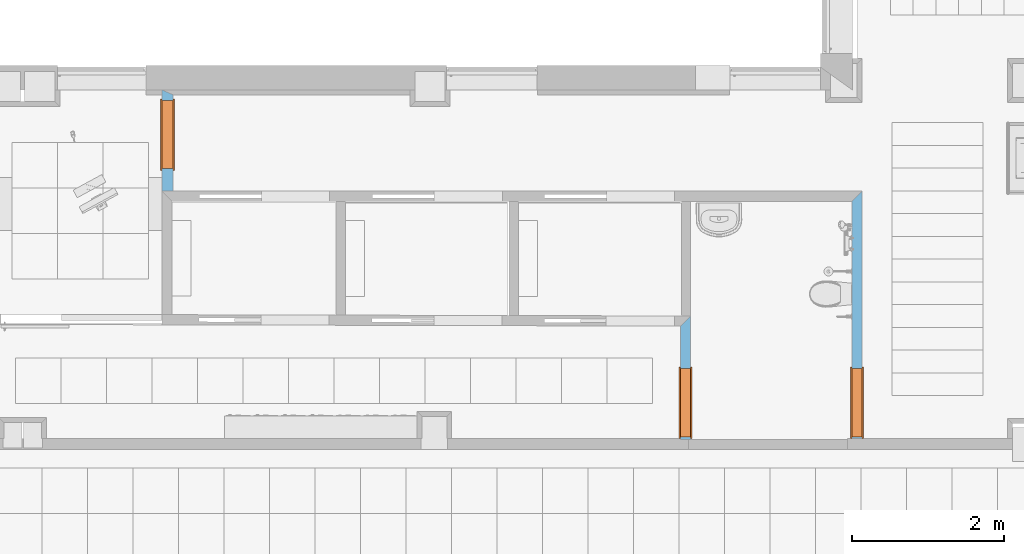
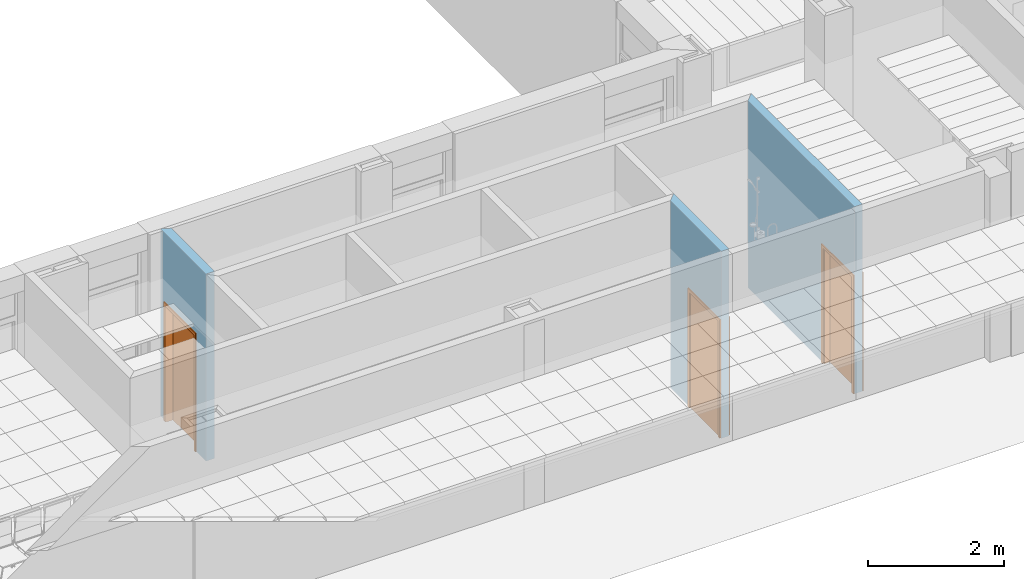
# One storey, part 52 of 68: 3 proxies, 3 openings, plus 3 elements that do not belong to this part.
"""IFC2X3 building model written with IfcOpenShell, lengths in millimetres."""

import ifcopenshell
import ifcopenshell.guid

model = None  # the IFC model being written
_history = None  # IfcOwnerHistory: only IFC2X3 demands one
_inside = {}  # id of a spatial element -> (the spatial element, [elements in it])
_under = {}  # id of a project, library or spatial element -> (it, [spatial elements below it])
_declared = {}  # id of a project -> (the project, [libraries it declares])
_typed = {}  # id of a type object -> (the type object, [elements of that type])
_made_of = {}  # id of a material, layer set ... -> (it, [elements and type objects made of it])


def new_model(schema):
    """Start an empty IFC model of exactly this schema.

    Asked for "IFC4X3", IfcOpenShell would pick the latest addendum, in which some entities
    have other attributes; the version numbers below select the first issue.
    IFC2X3 requires an IfcOwnerHistory on every rooted entity: one is made here for all.
    """
    global model, _history
    if schema == "IFC4X3":
        model = ifcopenshell.file(schema_version=(4, 3, 0, 0))
    else:
        model = ifcopenshell.file(schema=schema)
    _inside.clear()
    _under.clear()
    _declared.clear()
    _typed.clear()
    _made_of.clear()
    _history = None
    if model.schema == "IFC2X3":
        org = make("IfcOrganization", Name="unknown")
        user = make(
            "IfcPersonAndOrganization",
            ThePerson=make("IfcPerson", FamilyName="unknown"),
            TheOrganization=org,
        )
        app = make(
            "IfcApplication",
            ApplicationDeveloper=org,
            Version="unknown",
            ApplicationFullName="unknown",
            ApplicationIdentifier="unknown",
        )
        _history = make(
            "IfcOwnerHistory",
            OwningUser=user,
            OwningApplication=app,
            ChangeAction="ADDED",
            CreationDate=0,
        )
    return model


def make(cls, **values):
    """One entity of the class cls with the attributes given. An attribute that is None is left unset."""
    return model.create_entity(
        cls, **{name: value for name, value in values.items() if value is not None}
    )


def entity(cls, *values):
    """Any entity or typed value of the class cls, its attributes in the order of the schema. None: left unset."""
    e = model.create_entity(cls)
    for i, value in enumerate(values):
        if value is not None:
            e[i] = value
    return e


def rooted(cls, **values):
    """An entity with a GlobalId (a new one), such as an element, a storey or a relation."""
    return make(cls, GlobalId=ifcopenshell.guid.new(), OwnerHistory=_history, **values)


def si_unit(unit_type, name, prefix=None):
    """IfcSIUnit, for example si_unit("LENGTHUNIT", "METRE", prefix="MILLI")."""
    return make("IfcSIUnit", UnitType=unit_type, Prefix=prefix, Name=name)


def converted_unit(unit_type, name, factor, base, dimensions=None, offset=None):
    """IfcConversionBasedUnit, such as the inch: factor (a typed value) times the base unit."""
    return make(
        "IfcConversionBasedUnit"
        if offset is None
        else "IfcConversionBasedUnitWithOffset",
        ConversionOffset=offset,
        Dimensions=None
        if dimensions is None
        else entity("IfcDimensionalExponents", *dimensions),
        UnitType=unit_type,
        Name=name,
        ConversionFactor=make(
            "IfcMeasureWithUnit", ValueComponent=factor, UnitComponent=base
        ),
    )


def derived_unit(unit_type, elements):
    """IfcDerivedUnit: a product of units, each with its exponent."""
    return make(
        "IfcDerivedUnit",
        Elements=[
            make("IfcDerivedUnitElement", Unit=unit, Exponent=power)
            for unit, power in elements
        ],
        UnitType=unit_type,
    )


def money_unit(currency):
    """IfcMonetaryUnit."""
    return make("IfcMonetaryUnit", Currency=currency)


def assignment(units):
    """IfcUnitAssignment: the units of a project."""
    return None if units is None else make("IfcUnitAssignment", Units=units)


def point(xyz):
    """IfcCartesianPoint."""
    return None if xyz is None else make("IfcCartesianPoint", Coordinates=xyz)


def direction(xyz):
    """IfcDirection."""
    return None if xyz is None else make("IfcDirection", DirectionRatios=xyz)


def frame(location, z_axis=None, x_axis=None):
    """IfcAxis2Placement3D, a coordinate frame: its origin and axes. An axis left out is left unset."""
    return make(
        "IfcAxis2Placement3D",
        Location=point(location),
        Axis=direction(z_axis),
        RefDirection=direction(x_axis),
    )


def frame_2d(location, x_axis=None):
    """IfcAxis2Placement2D, a coordinate frame in the plane: its origin and x axis."""
    return make(
        "IfcAxis2Placement2D", Location=point(location), RefDirection=direction(x_axis)
    )


def origin_with_axes():
    """The frame at (0, 0, 0) with the z axis (0, 0, 1) and the x axis (1, 0, 0) written out."""
    return frame((0.0, 0.0, 0.0), z_axis=(0.0, 0.0, 1.0), x_axis=(1.0, 0.0, 0.0))


def origin_2d_with_axis():
    """The frame at (0, 0) in the plane with the x axis (1, 0) written out."""
    return frame_2d((0.0, 0.0), x_axis=(1.0, 0.0))


def place(relative_to, where):
    """IfcLocalPlacement: puts the frame where relative to a parent placement (None: the world)."""
    return make(
        "IfcLocalPlacement", PlacementRelTo=relative_to, RelativePlacement=where
    )


def context(
    kind, dimensions, precision=None, world=None, true_north=None, identifier=None
):
    """IfcGeometricRepresentationContext, for example the 3D "Model" context."""
    return make(
        "IfcGeometricRepresentationContext",
        ContextIdentifier=identifier,
        ContextType=kind,
        CoordinateSpaceDimension=dimensions,
        Precision=precision,
        WorldCoordinateSystem=world,
        TrueNorth=true_north,
    )


def subcontext(parent, identifier, kind, view, scale=None):
    """IfcGeometricRepresentationSubContext, for example "Body" below "Model"."""
    return make(
        "IfcGeometricRepresentationSubContext",
        ContextIdentifier=identifier,
        ContextType=kind,
        ParentContext=parent,
        TargetScale=scale,
        TargetView=view,
    )


def project(units=None, contexts=None):
    """IfcProject with its units and contexts."""
    return rooted(
        "IfcProject",
        Name="project",
        RepresentationContexts=contexts,
        UnitsInContext=assignment(units),
    )


def spatial(cls, under=None, at=None, **own):
    """A site, building, storey or space (cls), placed at a placement, below another one or the project."""
    s = rooted(cls, ObjectPlacement=at, **own)
    if under is not None:
        _under.setdefault(under.id(), (under, []))[1].append(s)
    return s


def polyline(points):
    """IfcPolyline through the points."""
    return make("IfcPolyline", Points=[point(p) for p in points])


def profile(cls, at=None, kind="AREA", **sizes):
    """A parametric profile (cls). Its sizes go by their IFC names, for example OverallWidth=200.0."""
    return make(cls, ProfileType=kind, Position=at, **sizes)


def rectangle(**sizes):
    """IfcRectangleProfileDef."""
    return profile("IfcRectangleProfileDef", **sizes)


def outline(outer, holes=None, kind="AREA"):
    """IfcArbitraryClosedProfileDef: a profile drawn as a closed curve; with holes, ...WithVoids."""
    if holes is None:
        return make("IfcArbitraryClosedProfileDef", ProfileType=kind, OuterCurve=outer)
    return make(
        "IfcArbitraryProfileDefWithVoids",
        ProfileType=kind,
        OuterCurve=outer,
        InnerCurves=holes,
    )


def extrude(swept, where, along, depth):
    """IfcExtrudedAreaSolid: the profile swept, set in the frame where, extruded along a direction by depth."""
    return make(
        "IfcExtrudedAreaSolid",
        SweptArea=swept,
        Position=where,
        ExtrudedDirection=direction(along),
        Depth=depth,
    )


def faces_of(points, faces, orient=None, outer=None):
    """IfcFace entities. A face is a list of loops; a loop is a list of indices into points, from 0.

    orient and outer hold one flag for each loop. By default every Orientation is true, the
    first loop of a face is its IfcFaceOuterBound and the others are IfcFaceBound.
    """
    made = []
    for i, loops in enumerate(faces):
        bounds = []
        for j, loop in enumerate(loops):
            is_outer = j == 0 if outer is None else outer[i][j]
            bounds.append(
                make(
                    "IfcFaceOuterBound" if is_outer else "IfcFaceBound",
                    Bound=make("IfcPolyLoop", Polygon=[points[k] for k in loop]),
                    Orientation=True if orient is None else orient[i][j],
                )
            )
        made.append(make("IfcFace", Bounds=bounds))
    return made


def faceted_brep(points, faces, orient=None, outer=None, voids=None):
    """IfcFacetedBrep: a solid bounded by flat faces; with voids (closed shells), ...WithVoids."""
    shared = [point(p) for p in points]
    hull = make("IfcClosedShell", CfsFaces=faces_of(shared, faces, orient, outer))
    if voids is None:
        return make("IfcFacetedBrep", Outer=hull)
    return make(
        "IfcFacetedBrepWithVoids",
        Outer=hull,
        Voids=[
            make(cls, CfsFaces=faces_of(shared, fs, o, b)) for cls, fs, o, b in voids
        ],
    )


def shape(context_of_items, identifier, shape_type, items):
    """IfcShapeRepresentation: the items that make up one representation, for example the "Body"."""
    return make(
        "IfcShapeRepresentation",
        ContextOfItems=context_of_items,
        RepresentationIdentifier=identifier,
        RepresentationType=shape_type,
        Items=items,
    )


def material(Name=None, Category=None):
    """IfcMaterial."""
    return make("IfcMaterial", Name=Name, Category=Category)


def layer(
    of_material, thickness, ventilated=None, Name=None, Category=None, Priority=None
):
    """IfcMaterialLayer: one layer of a wall or slab, of a material (None: an air gap)."""
    return make(
        "IfcMaterialLayer",
        Material=of_material,
        LayerThickness=thickness,
        IsVentilated=ventilated,
        Name=Name,
        Category=Category,
        Priority=Priority,
    )


def layer_set(layers, Name=None):
    """IfcMaterialLayerSet."""
    return make("IfcMaterialLayerSet", MaterialLayers=layers, LayerSetName=Name)


def layer_usage(for_layer_set, set_direction, sense, offset, extent=None):
    """IfcMaterialLayerSetUsage: how a layer set lies in its element."""
    return make(
        "IfcMaterialLayerSetUsage",
        ForLayerSet=for_layer_set,
        LayerSetDirection=set_direction,
        DirectionSense=sense,
        OffsetFromReferenceLine=offset,
        ReferenceExtent=extent,
    )


def made_of(thing, what):
    """Note that an element or type object is made of a material, layer set ...; save() writes the relation."""
    if what is not None:
        _made_of.setdefault(what.id(), (what, []))[1].append(thing)
    return thing


def type_object(cls, material=None, **own):
    """A type object (cls), such as IfcWallType, which elements share."""
    return made_of(rooted(cls, **own), material)


def element(
    cls,
    number,
    at=None,
    inside=None,
    cuts=None,
    type_object=None,
    material=None,
    context=None,
    identifier="Body",
    shape_type=None,
    held_by="IfcProductDefinitionShape",
    body=None,
    shapes=None,
    **own,
):
    """One element of the class cls, such as IfcWall. Its Tag is "e" and its number.

    at: its placement. inside: the storey or other place that contains it. cuts: it is an
    opening in that element (IfcRelVoidsElement). A single representation is given by context,
    identifier, shape_type and body (its items); several are given by shapes. held_by: the class
    of the entity that holds the representations. save() writes the other relations.
    """
    e = rooted(cls, Tag="e%d" % number, ObjectPlacement=at, **own)
    if body is not None:
        shapes = [shape(context, identifier, shape_type, body)]
    if shapes is not None:
        e.Representation = make(held_by, Representations=shapes)
    if inside is not None:
        _inside.setdefault(inside.id(), (inside, []))[1].append(e)
    if cuts is not None:
        rooted(
            "IfcRelVoidsElement", RelatingBuildingElement=cuts, RelatedOpeningElement=e
        )
    if type_object is not None:
        _typed.setdefault(type_object.id(), (type_object, []))[1].append(e)
    return made_of(e, material)


def fill(opening, filler):
    """IfcRelFillsElement: the door or window that sits in an opening."""
    return rooted(
        "IfcRelFillsElement",
        RelatingOpeningElement=opening,
        RelatedBuildingElement=filler,
    )


def aggregate(whole, parts):
    """IfcRelAggregates: a whole, such as a stair, and the parts it consists of."""
    return rooted("IfcRelAggregates", RelatingObject=whole, RelatedObjects=parts)


def save(model, path):
    """Write the relations noted so far, then the file.

    IfcRelAggregates (storeys below a building ...), IfcRelContainedInSpatialStructure (elements
    in a storey), IfcRelDefinesByType, IfcRelAssociatesMaterial and IfcRelDeclares: one each for
    every whole, place, type object, material and project.
    """
    for whole, parts in _under.values():
        aggregate(whole, parts)
    for where, things in _inside.values():
        rooted(
            "IfcRelContainedInSpatialStructure",
            RelatedElements=things,
            RelatingStructure=where,
        )
    for kind, things in _typed.values():
        rooted("IfcRelDefinesByType", RelatedObjects=things, RelatingType=kind)
    for what, things in _made_of.values():
        rooted("IfcRelAssociatesMaterial", RelatedObjects=things, RelatingMaterial=what)
    for by, libraries in _declared.values():
        rooted("IfcRelDeclares", RelatingContext=by, RelatedDefinitions=libraries)
    model.write(path)


model = new_model("IFC2X3")

# Units and contexts
model_context = context("Model", 3, precision=0.01, world=origin_with_axes(), true_north=direction((0.0, 1.0)))
body_context = subcontext(model_context, "Body", "Model", "MODEL_VIEW")
ifc_project = project(units=[si_unit("LENGTHUNIT", "METRE", prefix="MILLI"), si_unit("AREAUNIT", "SQUARE_METRE"), si_unit("VOLUMEUNIT", "CUBIC_METRE"), converted_unit("PLANEANGLEUNIT", "DEGREE", entity("IfcPlaneAngleMeasure", 0.0174532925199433), si_unit("PLANEANGLEUNIT", "RADIAN"), dimensions=[0, 0, 0, 0, 0, 0, 0]), money_unit("USD"), converted_unit("TIMEUNIT", "Year", entity("IfcTimeMeasure", 31557600.0), si_unit("TIMEUNIT", "SECOND"), dimensions=[0, 0, 1, 0, 0, 0, 0]), si_unit("MASSUNIT", "GRAM", prefix="KILO"), si_unit("THERMODYNAMICTEMPERATUREUNIT", "DEGREE_CELSIUS"), si_unit("LUMINOUSINTENSITYUNIT", "LUMEN"), si_unit("ENERGYUNIT", "JOULE", prefix="MEGA"), derived_unit("THERMALCONDUCTANCEUNIT", [(si_unit("POWERUNIT", "WATT"), 1), (si_unit("LENGTHUNIT", "METRE"), -1), (si_unit("THERMODYNAMICTEMPERATUREUNIT", "KELVIN"), -1)]), derived_unit("SPECIFICHEATCAPACITYUNIT", [(si_unit("ENERGYUNIT", "JOULE"), 1), (si_unit("MASSUNIT", "GRAM", prefix="KILO"), -1), (si_unit("THERMODYNAMICTEMPERATUREUNIT", "KELVIN"), -1)]), derived_unit("MASSDENSITYUNIT", [(si_unit("MASSUNIT", "GRAM", prefix="KILO"), 1), (si_unit("VOLUMEUNIT", "CUBIC_METRE"), -1)])], contexts=[model_context])

# Site, building, storey
site_placement = place(None, origin_with_axes())
site = spatial("IfcSite", under=ifc_project, at=site_placement, Name="Sitio", CompositionType="ELEMENT")
building_placement = place(site_placement, origin_with_axes())
building = spatial("IfcBuilding", under=site, at=building_placement, Name="Construcción", CompositionType="ELEMENT")
storey_placement = place(building_placement, origin_with_axes())
storey = spatial("IfcBuildingStorey", under=building, at=storey_placement, Name="PLANTA 1ª", CompositionType="ELEMENT", Elevation=0.0)

# Wall, opening, proxy
ifc_material_1 = material(Name="ARQ_FU093_Panellat_HPL")
ifc_layer_1 = layer(ifc_material_1, 6.0, ventilated="UNKNOWN")
ifc_material_2 = material(Name="ARQ_EN271_Camara_Aire")
ifc_layer_2 = layer(ifc_material_2, 6.0, ventilated="UNKNOWN")
ifc_material_3 = material(Name="Panel de Yeso Laminado")
ifc_layer_3 = layer(ifc_material_3, 13.0, ventilated="UNKNOWN")
ifc_layer_4 = layer(ifc_material_3, 13.0, ventilated="UNKNOWN")
ifc_material_4 = material(Name="ARQ_AI033_Aillament_Llana_De_Roca")
ifc_layer_5 = layer(ifc_material_4, 70.0, ventilated="UNKNOWN")
ifc_layer_6 = layer(ifc_material_3, 13.0, ventilated="UNKNOWN")
ifc_layer_7 = layer(ifc_material_3, 13.0, ventilated="UNKNOWN")
ifc_layer_8 = layer(ifc_material_2, 6.0, ventilated="UNKNOWN")
ifc_layer_9 = layer(ifc_material_1, 6.0, ventilated="UNKNOWN")
ifc_layer_set_1 = layer_set([ifc_layer_1, ifc_layer_2, ifc_layer_3, ifc_layer_4, ifc_layer_5, ifc_layer_6, ifc_layer_7, ifc_layer_8, ifc_layer_9], Name="CR Pladur 70 HPL 2 cares")
ifc_layer_usage_1 = layer_usage(ifc_layer_set_1, "AXIS2", "NEGATIVE", 146.0)
wall_type_1 = type_object("IfcWallType", Name="CR Pladur 70 HPL 2 cares 146", PredefinedType="NOTDEFINED")
wall_1_placement = place(storey_placement, frame((-10640.07146744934, -13808.56065481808, 0.0), z_axis=(0.0, 0.0, 1.0), x_axis=(0.001478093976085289, 0.9999989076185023, 0.0)))
wall_1 = element("IfcWallStandardCase", 1, at=wall_1_placement, inside=storey, type_object=wall_type_1, material=ifc_layer_usage_1, Name="MS-205", context=body_context, shape_type="SweptSolid", body=[
    extrude(outline(polyline([(134.0001463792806, 0.0), (1404.586365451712, 0.0), (1469.37063450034, 146.0000000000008), (133.7843444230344, 146.0000000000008), (134.0001463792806, 0.0)])), origin_with_axes(), (0.0, 0.0, 1.0), 3350.0),
])
opening_1_placement = place(wall_1_placement, frame((880.3295445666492, 0.0, 0.0), z_axis=(0.0, 0.0, 1.0), x_axis=(1.0, 0.0, 0.0)))
opening_1 = element("IfcOpeningElement", 2, at=opening_1_placement, cuts=wall_1, Name="P-02", context=body_context, shape_type="SweptSolid", body=[
    extrude(rectangle(XDim=900.0000000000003, YDim=2100.0, at=origin_2d_with_axis()), frame((0.0, 145.999999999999, 1050.0), z_axis=(0.0, 1.0, 0.0), x_axis=(1.0, 0.0, 0.0)), (0.0, 0.0, -1.0), 438.0000000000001),
    extrude(rectangle(XDim=943.9999999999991, YDim=2122.0, at=origin_2d_with_axis()), frame((0.0, 145.999999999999, 1061.0), z_axis=(0.0, 1.0, 0.0), x_axis=(1.0, 0.0, 0.0)), (0.0, 0.0, 1.0), 146.0),
    extrude(rectangle(XDim=944.0000000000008, YDim=2122.0, at=origin_2d_with_axis()), frame((0.0, 0.0, 1061.0), z_axis=(0.0, -1.0, 0.0), x_axis=(1.0, 0.0, 0.0)), (0.0, 0.0, 1.0), 146.0),
])
building_element_proxy_type = type_object("IfcBuildingElementProxyType", Name="Puerta 27", PredefinedType="NOTDEFINED")
proxy_1_placement = place(opening_1_placement, frame((449.9999999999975, 0.0, 0.0), z_axis=(0.0, 0.0, 1.0), x_axis=(-1.0, 0.0, 0.0)))
proxy_1 = element("IfcBuildingElementProxy", 3, at=proxy_1_placement, inside=storey, type_object=building_element_proxy_type, Name="P-02", context=body_context, shape_type="Brep", body=[
    faceted_brep([(921.9999999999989, -164.9999999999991, 0.0), (871.9999999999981, -164.9999999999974, 0.0), (871.9999999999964, -146.0000000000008, 0.0), (921.999999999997, -145.999999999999, 0.0), (921.9999999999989, -164.9999999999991, 2122.0), (871.9999999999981, -164.9999999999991, 2072.0), (871.9999999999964, -146.0000000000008, 2072.0), (921.999999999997, -145.999999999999, 2122.0)], [[[0, 1, 2, 3]], [[0, 4, 5, 1]], [[1, 5, 6, 2]], [[3, 2, 6, 7]], [[4, 0, 3, 7]], [[5, 4, 7, 6]]]),
    faceted_brep([(-22.00000000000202, -164.9999999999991, 2122.0), (27.99999999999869, -164.9999999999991, 2072.0), (27.99999999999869, -145.999999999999, 2072.0), (-22.00000000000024, -146.0000000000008, 2122.0), (-22.00000000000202, -164.9999999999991, 0.0), (27.99999999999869, -164.9999999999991, 0.0), (27.99999999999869, -145.9999999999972, 0.0), (-22.00000000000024, -146.0000000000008, 0.0)], [[[0, 1, 2, 3]], [[0, 4, 5, 1]], [[1, 5, 6, 2]], [[3, 2, 6, 7]], [[4, 0, 3, 7]], [[5, 4, 7, 6]]]),
    faceted_brep([(921.9999999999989, -164.9999999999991, 2122.0), (871.9999999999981, -164.9999999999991, 2072.0), (871.9999999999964, -146.0000000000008, 2072.0), (921.999999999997, -145.999999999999, 2122.0), (-22.00000000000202, -164.9999999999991, 2122.0), (27.99999999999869, -164.9999999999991, 2072.0), (27.99999999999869, -145.999999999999, 2072.0), (-22.00000000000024, -146.0000000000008, 2122.0)], [[[0, 1, 2, 3]], [[0, 4, 5, 1]], [[1, 5, 6, 2]], [[3, 2, 6, 7]], [[4, 0, 3, 7]], [[5, 4, 7, 6]]]),
    faceted_brep([(921.9999999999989, 19.0000000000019, 0.0), (921.999999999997, 0.0, 0.0), (871.9999999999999, 0.0, 0.0), (871.9999999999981, 19.00000000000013, 0.0), (921.9999999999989, 19.00000000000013, 2122.0), (921.999999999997, 0.0, 2122.0), (871.9999999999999, 0.0, 2072.0), (871.9999999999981, 19.00000000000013, 2072.0)], [[[0, 1, 2, 3]], [[4, 5, 1, 0]], [[1, 5, 6, 2]], [[3, 2, 6, 7]], [[0, 3, 7, 4]], [[7, 6, 5, 4]]]),
    faceted_brep([(-22.00000000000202, 19.0000000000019, 2122.0), (-22.00000000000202, 0.0, 2122.0), (27.99999999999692, 0.0, 2072.0), (27.99999999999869, 19.00000000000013, 2072.0), (-22.00000000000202, 19.0000000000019, 0.0), (-22.00000000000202, 0.0, 0.0), (27.99999999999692, 0.0, 0.0), (27.99999999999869, 19.00000000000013, 0.0)], [[[0, 1, 2, 3]], [[4, 5, 1, 0]], [[1, 5, 6, 2]], [[3, 2, 6, 7]], [[0, 3, 7, 4]], [[7, 6, 5, 4]]]),
    faceted_brep([(921.9999999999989, 19.00000000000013, 2122.0), (921.999999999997, 0.0, 2122.0), (871.9999999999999, 0.0, 2072.0), (871.9999999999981, 19.00000000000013, 2072.0), (-22.00000000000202, 19.0000000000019, 2122.0), (-22.00000000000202, 0.0, 2122.0), (27.99999999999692, 0.0, 2072.0), (27.99999999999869, 19.00000000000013, 2072.0)], [[[0, 1, 2, 3]], [[4, 5, 1, 0]], [[1, 5, 6, 2]], [[3, 2, 6, 7]], [[0, 3, 7, 4]], [[7, 6, 5, 4]]]),
    faceted_brep([(859.9999999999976, -39.99999999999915, 0.0), (859.9999999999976, -145.999999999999, 0.0), (859.9999999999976, -145.999999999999, 2060.0), (859.9999999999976, -39.99999999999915, 2060.0), (871.9999999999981, -40.00000000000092, 0.0), (871.9999999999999, 0.0, 0.0), (899.9999999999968, 0.0, 0.0), (899.9999999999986, -145.999999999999, 0.0), (899.9999999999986, -145.999999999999, 2060.0), (871.9999999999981, -40.00000000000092, 2060.0), (899.9999999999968, 0.0, 2060.0), (871.9999999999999, 0.0, 2060.0)], [[[0, 1, 2, 3]], [[4, 5, 6, 7, 1, 0]], [[1, 7, 8, 2]], [[9, 3, 2, 8, 10, 11]], [[9, 4, 0, 3]], [[11, 5, 4, 9]], [[11, 10, 6, 5]], [[6, 10, 8, 7]]]),
    faceted_brep([(27.99999999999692, -39.99999999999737, 2060.0), (27.99999999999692, 0.0, 2060.0), (0.0, 0.0, 2060.0), (0.0, -145.999999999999, 2060.0), (39.99999999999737, -145.999999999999, 2060.0), (39.99999999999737, -39.99999999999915, 2060.0), (27.99999999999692, -39.99999999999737, 0.0), (27.99999999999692, 0.0, 0.0), (0.0, 0.0, 0.0), (0.0, -145.999999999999, 0.0), (39.99999999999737, -145.999999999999, 0.0), (39.99999999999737, -39.99999999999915, 0.0)], [[[0, 1, 2, 3, 4, 5]], [[0, 6, 7, 1]], [[7, 8, 2, 1]], [[2, 8, 9, 3]], [[3, 9, 10, 4]], [[5, 4, 10, 11]], [[5, 11, 6, 0]], [[6, 11, 10, 9, 8, 7]]]),
    faceted_brep([(871.9999999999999, 0.0, 2072.0), (27.99999999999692, 0.0, 2072.0), (27.99999999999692, 0.0, 2060.0), (0.0, 0.0, 2060.0), (0.0, 0.0, 2100.0), (899.9999999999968, 0.0, 2100.0), (899.9999999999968, 0.0, 2060.0), (871.9999999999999, 0.0, 2060.0), (871.9999999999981, -40.00000000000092, 2072.0), (27.99999999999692, -39.99999999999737, 2072.0), (27.99999999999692, -39.99999999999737, 2060.0), (39.99999999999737, -39.99999999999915, 2060.0), (39.99999999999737, -145.999999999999, 2060.0), (0.0, -145.999999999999, 2060.0), (0.0, -145.999999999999, 2100.0), (899.9999999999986, -145.999999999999, 2100.0), (899.9999999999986, -145.999999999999, 2060.0), (871.9999999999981, -40.00000000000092, 2060.0), (859.9999999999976, -145.999999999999, 2060.0), (859.9999999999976, -39.99999999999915, 2060.0)], [[[0, 1, 2, 3, 4, 5, 6, 7]], [[0, 8, 9, 1]], [[1, 9, 10, 2]], [[10, 11, 12, 13, 3, 2]], [[4, 3, 13, 14]], [[5, 4, 14, 15]], [[6, 5, 15, 16]], [[17, 7, 6, 16, 18, 19]], [[7, 17, 8, 0]], [[10, 9, 8, 17, 19, 11]], [[19, 18, 12, 11]], [[12, 18, 16, 15, 14, 13]]]),
    faceted_brep([(27.99999999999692, 0.0, 0.0), (871.9999999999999, 0.0, 0.0), (871.9999999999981, -40.00000000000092, 0.0), (27.99999999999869, -39.99999999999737, 0.0), (27.99999999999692, 0.0, 2072.0), (871.9999999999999, 0.0, 2072.0), (871.9999999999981, -40.00000000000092, 2072.0), (27.99999999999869, -39.99999999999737, 2072.0)], [[[0, 1, 2, 3]], [[0, 4, 5, 1]], [[1, 5, 6, 2]], [[3, 2, 6, 7]], [[4, 0, 3, 7]], [[5, 4, 7, 6]]]),
])
fill(opening_1, proxy_1)

ifc_layer_10 = layer(ifc_material_1, 6.0, ventilated="UNKNOWN")
ifc_layer_11 = layer(ifc_material_2, 6.0, ventilated="UNKNOWN")
ifc_layer_12 = layer(ifc_material_3, 13.0, ventilated="UNKNOWN")
ifc_layer_13 = layer(ifc_material_3, 13.0, ventilated="UNKNOWN")
ifc_layer_14 = layer(ifc_material_4, 70.0, ventilated="UNKNOWN")
ifc_material_5 = material(Name="ARQ_CG063_Guix_Laminat_Hydro")
ifc_layer_15 = layer(ifc_material_5, 13.0, ventilated="UNKNOWN")
ifc_layer_16 = layer(ifc_material_5, 13.0, ventilated="UNKNOWN")
ifc_layer_set_2 = layer_set([ifc_layer_10, ifc_layer_11, ifc_layer_12, ifc_layer_13, ifc_layer_14, ifc_layer_15, ifc_layer_16], Name="CR Pladur 70 mixte HPL 1")
ifc_layer_usage_2 = layer_usage(ifc_layer_set_2, "AXIS2", "POSITIVE", -134.0)
wall_type_2 = type_object("IfcWallType", Name="CR Pladur 70 mixte HPL 1 134", PredefinedType="NOTDEFINED")
wall_2_placement = place(storey_placement, frame((-1689.41390142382, -17083.97582371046, 0.0), z_axis=(0.0, 0.0, 1.0), x_axis=(0.0007390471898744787, 0.9999997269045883, 0.0)))
wall_2 = element("IfcWallStandardCase", 4, at=wall_2_placement, inside=storey, type_object=wall_type_2, material=ifc_layer_usage_2, Name="MS-205", context=body_context, shape_type="SweptSolid", body=[
    extrude(outline(polyline([(146.0990722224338, -133.9999999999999), (3409.515132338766, -133.9999999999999), (3275.416063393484, 0.0), (146.0000398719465, 0.0), (146.0990722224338, -133.9999999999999)])), origin_with_axes(), (0.0, 0.0, 1.0), 3350.0),
])
opening_2_placement = place(wall_2_placement, frame((619.483532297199, 0.0, 0.0), z_axis=(0.0, 0.0, 1.0), x_axis=(1.0, 0.0, 0.0)))
opening_2 = element("IfcOpeningElement", 5, at=opening_2_placement, cuts=wall_2, Name="P-02", context=body_context, shape_type="SweptSolid", body=[
    extrude(rectangle(XDim=899.9999999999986, YDim=2100.0, at=origin_2d_with_axis()), frame((0.0, 134.0000000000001, 1050.0), z_axis=(0.0, -1.0, 0.0), x_axis=(-1.0, 0.0, 0.0)), (0.0, 0.0, 1.0), 402.0),
    extrude(rectangle(XDim=944.0000000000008, YDim=2122.0, at=origin_2d_with_axis()), frame((0.0, 0.0, 1061.0), z_axis=(0.0, -1.0, 0.0), x_axis=(-1.0, 0.0, 0.0)), (0.0, 0.0, -1.0), 134.0),
    extrude(rectangle(XDim=944.0000000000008, YDim=2122.0, at=origin_2d_with_axis()), frame((0.0, -133.9999999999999, 1061.0), z_axis=(0.0, 1.0, 0.0), x_axis=(-1.0, 0.0, 0.0)), (0.0, 0.0, -1.0), 134.0),
])
proxy_2_placement = place(opening_2_placement, frame((449.9999999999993, 0.0, 0.0), z_axis=(0.0, 0.0, 1.0), x_axis=(-1.0, 0.0, 0.0)))
proxy_2 = element("IfcBuildingElementProxy", 6, at=proxy_2_placement, inside=storey, type_object=building_element_proxy_type, Name="P-02", context=body_context, shape_type="Brep", body=[
    faceted_brep([(-22.00000000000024, -19.00000000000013, 0.0), (-22.00000000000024, 0.0, 0.0), (27.99999999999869, 0.0, 0.0), (28.00000000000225, -18.99999999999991, 0.0), (-22.00000000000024, -19.00000000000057, 2122.0), (-22.00000000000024, 0.0, 2122.0), (27.99999999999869, 0.0, 2072.0), (28.00000000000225, -19.00000000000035, 2072.0)], [[[0, 1, 2, 3]], [[4, 5, 1, 0]], [[1, 5, 6, 2]], [[3, 2, 6, 7]], [[0, 3, 7, 4]], [[7, 6, 5, 4]]]),
    faceted_brep([(922.0000000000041, -19.00000000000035, 2122.0), (922.0000000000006, 0.0, 2122.0), (871.9999999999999, 0.0, 2072.0), (871.9999999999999, -19.00000000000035, 2072.0), (922.0000000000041, -18.99999999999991, 0.0), (922.0000000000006, 0.0, 0.0), (871.9999999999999, 0.0, 0.0), (871.9999999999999, -18.99999999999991, 0.0)], [[[0, 1, 2, 3]], [[4, 5, 1, 0]], [[1, 5, 6, 2]], [[3, 2, 6, 7]], [[0, 3, 7, 4]], [[7, 6, 5, 4]]]),
    faceted_brep([(-22.00000000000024, -19.00000000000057, 2122.0), (-22.00000000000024, 0.0, 2122.0), (27.99999999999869, 0.0, 2072.0), (28.00000000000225, -19.00000000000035, 2072.0), (922.0000000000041, -19.00000000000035, 2122.0), (922.0000000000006, 0.0, 2122.0), (871.9999999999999, 0.0, 2072.0), (871.9999999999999, -19.00000000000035, 2072.0)], [[[0, 1, 2, 3]], [[4, 5, 1, 0]], [[1, 5, 6, 2]], [[3, 2, 6, 7]], [[0, 3, 7, 4]], [[7, 6, 5, 4]]]),
    faceted_brep([(-22.00000000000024, 152.9999999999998, 0.0), (27.99999999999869, 153.0, 0.0), (28.00000000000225, 134.0000000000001, 0.0), (-22.00000000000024, 133.9999999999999, 0.0), (-22.00000000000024, 152.9999999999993, 2122.0), (27.99999999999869, 152.9999999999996, 2072.0), (28.00000000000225, 133.9999999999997, 2072.0), (-22.00000000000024, 133.9999999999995, 2122.0)], [[[0, 1, 2, 3]], [[0, 4, 5, 1]], [[1, 5, 6, 2]], [[3, 2, 6, 7]], [[4, 0, 3, 7]], [[5, 4, 7, 6]]]),
    faceted_brep([(922.0000000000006, 152.9999999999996, 2122.0), (871.9999999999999, 152.9999999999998, 2072.0), (871.9999999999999, 133.9999999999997, 2072.0), (922.0000000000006, 133.9999999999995, 2122.0), (922.0000000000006, 153.0, 0.0), (871.9999999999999, 153.0, 0.0), (871.9999999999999, 133.9999999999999, 0.0), (922.0000000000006, 133.9999999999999, 0.0)], [[[0, 1, 2, 3]], [[0, 4, 5, 1]], [[1, 5, 6, 2]], [[3, 2, 6, 7]], [[4, 0, 3, 7]], [[5, 4, 7, 6]]]),
    faceted_brep([(-22.00000000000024, 152.9999999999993, 2122.0), (27.99999999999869, 152.9999999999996, 2072.0), (28.00000000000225, 133.9999999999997, 2072.0), (-22.00000000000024, 133.9999999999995, 2122.0), (922.0000000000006, 152.9999999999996, 2122.0), (871.9999999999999, 152.9999999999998, 2072.0), (871.9999999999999, 133.9999999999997, 2072.0), (922.0000000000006, 133.9999999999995, 2122.0)], [[[0, 1, 2, 3]], [[0, 4, 5, 1]], [[1, 5, 6, 2]], [[3, 2, 6, 7]], [[4, 0, 3, 7]], [[5, 4, 7, 6]]]),
    faceted_brep([(39.99999999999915, 93.99999999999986, 0.0), (39.99999999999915, 93.99999999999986, 2060.0), (39.99999999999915, 0.0, 2060.0), (39.99999999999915, 0.0, 0.0), (27.99999999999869, 93.99999999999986, 2060.0), (27.99999999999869, 94.00000000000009, 0.0), (28.00000000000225, 133.9999999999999, 2060.0), (0.0, 133.9999999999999, 2060.0), (0.0, 0.0, 2060.0), (0.0, 0.0, 0.0), (0.0, 134.0000000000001, 0.0), (28.00000000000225, 134.0000000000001, 0.0)], [[[0, 1, 2, 3]], [[4, 1, 0, 5]], [[4, 6, 7, 8, 2, 1]], [[3, 2, 8, 9]], [[5, 0, 3, 9, 10, 11]], [[6, 4, 5, 11]], [[6, 11, 10, 7]], [[10, 9, 8, 7]]]),
    faceted_brep([(871.9999999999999, 93.99999999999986, 2060.0), (860.000000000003, 93.99999999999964, 2060.0), (859.9999999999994, 0.0, 2060.0), (899.9999999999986, 0.0, 2060.0), (900.0000000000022, 133.9999999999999, 2060.0), (871.9999999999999, 133.9999999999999, 2060.0), (871.9999999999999, 93.99999999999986, 0.0), (860.000000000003, 93.99999999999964, 0.0), (859.9999999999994, 0.0, 0.0), (899.9999999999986, 0.0, 0.0), (900.0000000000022, 133.9999999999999, 0.0), (871.9999999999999, 133.9999999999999, 0.0)], [[[0, 1, 2, 3, 4, 5]], [[1, 0, 6, 7]], [[1, 7, 8, 2]], [[3, 2, 8, 9]], [[4, 3, 9, 10]], [[11, 5, 4, 10]], [[0, 5, 11, 6]], [[6, 11, 10, 9, 8, 7]]]),
    faceted_brep([(28.00000000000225, 133.9999999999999, 2072.0), (28.00000000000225, 133.9999999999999, 2060.0), (0.0, 133.9999999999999, 2060.0), (0.0, 133.9999999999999, 2100.0), (900.0000000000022, 133.9999999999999, 2100.0), (900.0000000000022, 133.9999999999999, 2060.0), (871.9999999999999, 133.9999999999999, 2060.0), (871.9999999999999, 133.9999999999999, 2072.0), (27.99999999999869, 93.99999999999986, 2072.0), (27.99999999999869, 93.99999999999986, 2060.0), (39.99999999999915, 93.99999999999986, 2060.0), (39.99999999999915, 0.0, 2060.0), (0.0, 0.0, 2060.0), (0.0, 0.0, 2100.0), (899.9999999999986, 0.0, 2100.0), (899.9999999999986, 0.0, 2060.0), (871.9999999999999, 93.99999999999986, 2060.0), (859.9999999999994, 0.0, 2060.0), (860.000000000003, 93.99999999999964, 2060.0), (871.9999999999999, 93.99999999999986, 2072.0)], [[[0, 1, 2, 3, 4, 5, 6, 7]], [[1, 0, 8, 9]], [[9, 10, 11, 12, 2, 1]], [[2, 12, 13, 3]], [[3, 13, 14, 4]], [[4, 14, 15, 5]], [[16, 6, 5, 15, 17, 18]], [[7, 6, 16, 19]], [[0, 7, 19, 8]], [[16, 18, 10, 9, 8, 19]], [[10, 18, 17, 11]], [[17, 15, 14, 13, 12, 11]]]),
    faceted_brep([(871.9999999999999, 133.9999999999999, 0.0), (871.9999999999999, 93.99999999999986, 0.0), (27.99999999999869, 94.00000000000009, 0.0), (28.00000000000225, 134.0000000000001, 0.0), (871.9999999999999, 133.9999999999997, 2072.0), (871.9999999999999, 93.99999999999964, 2072.0), (27.99999999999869, 93.99999999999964, 2072.0), (28.00000000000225, 133.9999999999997, 2072.0)], [[[0, 1, 2, 3]], [[4, 5, 1, 0]], [[1, 5, 6, 2]], [[3, 2, 6, 7]], [[0, 3, 7, 4]], [[7, 6, 5, 4]]]),
])
fill(opening_2, proxy_2)

ifc_layer_usage_3 = layer_usage(ifc_layer_set_2, "AXIS2", "NEGATIVE", 134.0)
wall_3_placement = place(storey_placement, frame((-3816.507728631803, -17083.97582371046, 0.0), z_axis=(0.0, 0.0, 1.0), x_axis=(0.0007390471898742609, 0.9999997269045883, 0.0)))
wall_3 = element("IfcWallStandardCase", 7, at=wall_3_placement, inside=storey, type_object=wall_type_2, material=ifc_layer_usage_3, Name="MS-205", context=body_context, shape_type="SweptSolid", body=[
    extrude(outline(polyline([(134.0000365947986, 0.0), (1764.120343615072, 0.0), (1630.353187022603, 134.0000000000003), (133.9010042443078, 134.0000000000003), (134.0000365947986, 0.0)])), origin_with_axes(), (0.0, 0.0, 1.0), 3350.0),
])
opening_3_placement = place(wall_3_placement, frame((619.8329834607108, 0.0, 0.0), z_axis=(0.0, 0.0, 1.0), x_axis=(1.0, 0.0, 0.0)))
opening_3 = element("IfcOpeningElement", 8, at=opening_3_placement, cuts=wall_3, Name="P-02", context=body_context, shape_type="SweptSolid", body=[
    extrude(rectangle(XDim=899.9999999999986, YDim=2100.0, at=origin_2d_with_axis()), frame((0.0, -134.0000000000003, 1050.0), z_axis=(0.0, -1.0, 0.0), x_axis=(-1.0, 0.0, 0.0)), (0.0, 0.0, -1.0), 402.0),
    extrude(rectangle(XDim=943.9999999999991, YDim=2122.0, at=origin_2d_with_axis()), frame((0.0, 0.0, 1061.0), z_axis=(0.0, -1.0, 0.0), x_axis=(-1.0, 0.0, 0.0)), (0.0, 0.0, 1.0), 134.0),
    extrude(rectangle(XDim=944.0000000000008, YDim=2122.0, at=origin_2d_with_axis()), frame((0.0, 133.9999999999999, 1061.0), z_axis=(0.0, 1.0, 0.0), x_axis=(-1.0, 0.0, 0.0)), (0.0, 0.0, 1.0), 134.0),
])
proxy_3_placement = place(opening_3_placement, frame((-449.9999999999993, 0.0, 0.0), z_axis=(0.0, 0.0, 1.0), x_axis=(1.0, 0.0, 0.0)))
proxy_3 = element("IfcBuildingElementProxy", 9, at=proxy_3_placement, inside=storey, type_object=building_element_proxy_type, Name="P-02", context=body_context, shape_type="Brep", body=[
    faceted_brep([(921.9999999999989, -18.99999999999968, 0.0), (871.9999999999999, -18.99999999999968, 0.0), (871.9999999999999, 0.0, 0.0), (921.9999999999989, 0.0, 0.0), (921.9999999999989, -19.00000000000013, 2122.0), (871.9999999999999, -19.00000000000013, 2072.0), (871.9999999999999, 0.0, 2072.0), (921.9999999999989, 0.0, 2122.0)], [[[0, 1, 2, 3]], [[0, 4, 5, 1]], [[1, 5, 6, 2]], [[3, 2, 6, 7]], [[4, 0, 3, 7]], [[5, 4, 7, 6]]]),
    faceted_brep([(-21.99999999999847, -19.00000000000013, 2122.0), (27.99999999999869, -19.00000000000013, 2072.0), (28.00000000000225, 0.0, 2072.0), (-22.00000000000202, 0.0, 2122.0), (-21.99999999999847, -19.00000000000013, 0.0), (27.99999999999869, -19.00000000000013, 0.0), (28.00000000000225, 0.0, 0.0), (-22.00000000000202, 0.0, 0.0)], [[[0, 1, 2, 3]], [[0, 4, 5, 1]], [[1, 5, 6, 2]], [[3, 2, 6, 7]], [[4, 0, 3, 7]], [[5, 4, 7, 6]]]),
    faceted_brep([(921.9999999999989, -19.00000000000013, 2122.0), (871.9999999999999, -19.00000000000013, 2072.0), (871.9999999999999, 0.0, 2072.0), (921.9999999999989, 0.0, 2122.0), (-21.99999999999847, -19.00000000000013, 2122.0), (27.99999999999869, -19.00000000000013, 2072.0), (28.00000000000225, 0.0, 2072.0), (-22.00000000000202, 0.0, 2122.0)], [[[0, 1, 2, 3]], [[0, 4, 5, 1]], [[1, 5, 6, 2]], [[3, 2, 6, 7]], [[4, 0, 3, 7]], [[5, 4, 7, 6]]]),
    faceted_brep([(922.0000000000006, 153.0, 0.0), (921.9999999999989, 133.9999999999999, 0.0), (871.9999999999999, 133.9999999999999, 0.0), (871.9999999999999, 153.0, 0.0), (922.0000000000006, 153.0, 2122.0), (921.9999999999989, 133.9999999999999, 2122.0), (871.9999999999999, 133.9999999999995, 2072.0), (871.9999999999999, 153.0, 2072.0)], [[[0, 1, 2, 3]], [[4, 5, 1, 0]], [[1, 5, 6, 2]], [[3, 2, 6, 7]], [[0, 3, 7, 4]], [[7, 6, 5, 4]]]),
    faceted_brep([(-21.99999999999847, 152.9999999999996, 2122.0), (-22.00000000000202, 133.9999999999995, 2122.0), (28.00000000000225, 133.9999999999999, 2072.0), (27.99999999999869, 152.9999999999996, 2072.0), (-21.99999999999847, 153.0, 0.0), (-22.00000000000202, 133.9999999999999, 0.0), (28.00000000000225, 133.9999999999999, 0.0), (27.99999999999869, 152.9999999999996, 0.0)], [[[0, 1, 2, 3]], [[4, 5, 1, 0]], [[1, 5, 6, 2]], [[3, 2, 6, 7]], [[0, 3, 7, 4]], [[7, 6, 5, 4]]]),
    faceted_brep([(922.0000000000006, 153.0, 2122.0), (921.9999999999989, 133.9999999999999, 2122.0), (871.9999999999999, 133.9999999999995, 2072.0), (871.9999999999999, 153.0, 2072.0), (-21.99999999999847, 152.9999999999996, 2122.0), (-22.00000000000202, 133.9999999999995, 2122.0), (28.00000000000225, 133.9999999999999, 2072.0), (27.99999999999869, 152.9999999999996, 2072.0)], [[[0, 1, 2, 3]], [[4, 5, 1, 0]], [[1, 5, 6, 2]], [[3, 2, 6, 7]], [[0, 3, 7, 4]], [[7, 6, 5, 4]]]),
    faceted_brep([(859.9999999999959, 93.99999999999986, 0.0), (859.9999999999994, 0.0, 0.0), (859.9999999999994, 0.0, 2060.0), (859.9999999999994, 93.99999999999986, 2060.0), (871.9999999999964, 93.99999999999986, 0.0), (871.9999999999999, 133.9999999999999, 0.0), (899.9999999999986, 134.0000000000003, 0.0), (899.9999999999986, 0.0, 0.0), (899.9999999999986, 0.0, 2060.0), (871.9999999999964, 94.00000000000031, 2060.0), (899.9999999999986, 134.0000000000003, 2060.0), (871.9999999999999, 133.9999999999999, 2060.0)], [[[0, 1, 2, 3]], [[4, 5, 6, 7, 1, 0]], [[1, 7, 8, 2]], [[9, 3, 2, 8, 10, 11]], [[9, 4, 0, 3]], [[11, 5, 4, 9]], [[11, 10, 6, 5]], [[6, 10, 8, 7]]]),
    faceted_brep([(27.99999999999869, 94.00000000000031, 2060.0), (28.00000000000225, 134.0000000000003, 2060.0), (0.0, 133.9999999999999, 2060.0), (0.0, 0.0, 2060.0), (39.99999999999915, 0.0, 2060.0), (39.99999999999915, 93.99999999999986, 2060.0), (27.99999999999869, 93.99999999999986, 0.0), (28.00000000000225, 133.9999999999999, 0.0), (0.0, 133.9999999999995, 0.0), (0.0, 0.0, 0.0), (39.99999999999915, 0.0, 0.0), (39.99999999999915, 93.99999999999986, 0.0)], [[[0, 1, 2, 3, 4, 5]], [[0, 6, 7, 1]], [[7, 8, 2, 1]], [[2, 8, 9, 3]], [[3, 9, 10, 4]], [[5, 4, 10, 11]], [[5, 11, 6, 0]], [[6, 11, 10, 9, 8, 7]]]),
    faceted_brep([(871.9999999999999, 133.9999999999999, 2072.0), (28.00000000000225, 134.0000000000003, 2072.0), (28.00000000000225, 134.0000000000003, 2060.0), (0.0, 133.9999999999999, 2060.0), (0.0, 133.9999999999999, 2100.0), (899.9999999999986, 134.0000000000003, 2100.0), (899.9999999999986, 134.0000000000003, 2060.0), (871.9999999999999, 133.9999999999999, 2060.0), (871.9999999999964, 94.00000000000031, 2072.0), (27.99999999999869, 94.00000000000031, 2072.0), (27.99999999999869, 94.00000000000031, 2060.0), (39.99999999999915, 93.99999999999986, 2060.0), (39.99999999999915, 0.0, 2060.0), (0.0, 0.0, 2060.0), (0.0, 0.0, 2100.0), (899.9999999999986, 0.0, 2100.0), (899.9999999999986, 0.0, 2060.0), (871.9999999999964, 94.00000000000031, 2060.0), (859.9999999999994, 0.0, 2060.0), (859.9999999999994, 93.99999999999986, 2060.0)], [[[0, 1, 2, 3, 4, 5, 6, 7]], [[0, 8, 9, 1]], [[1, 9, 10, 2]], [[10, 11, 12, 13, 3, 2]], [[4, 3, 13, 14]], [[5, 4, 14, 15]], [[6, 5, 15, 16]], [[17, 7, 6, 16, 18, 19]], [[7, 17, 8, 0]], [[10, 9, 8, 17, 19, 11]], [[19, 18, 12, 11]], [[12, 18, 16, 15, 14, 13]]]),
    faceted_brep([(28.00000000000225, 133.9999999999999, 0.0), (871.9999999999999, 133.9999999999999, 0.0), (871.9999999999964, 93.99999999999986, 0.0), (27.99999999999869, 93.99999999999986, 0.0), (28.00000000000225, 133.9999999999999, 2072.0), (871.9999999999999, 133.9999999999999, 2072.0), (871.9999999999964, 93.99999999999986, 2072.0), (27.99999999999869, 93.99999999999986, 2072.0)], [[[0, 1, 2, 3]], [[0, 4, 5, 1]], [[1, 5, 6, 2]], [[3, 2, 6, 7]], [[4, 0, 3, 7]], [[5, 4, 7, 6]]]),
])
fill(opening_3, proxy_3)

save(model, "model.ifc")
